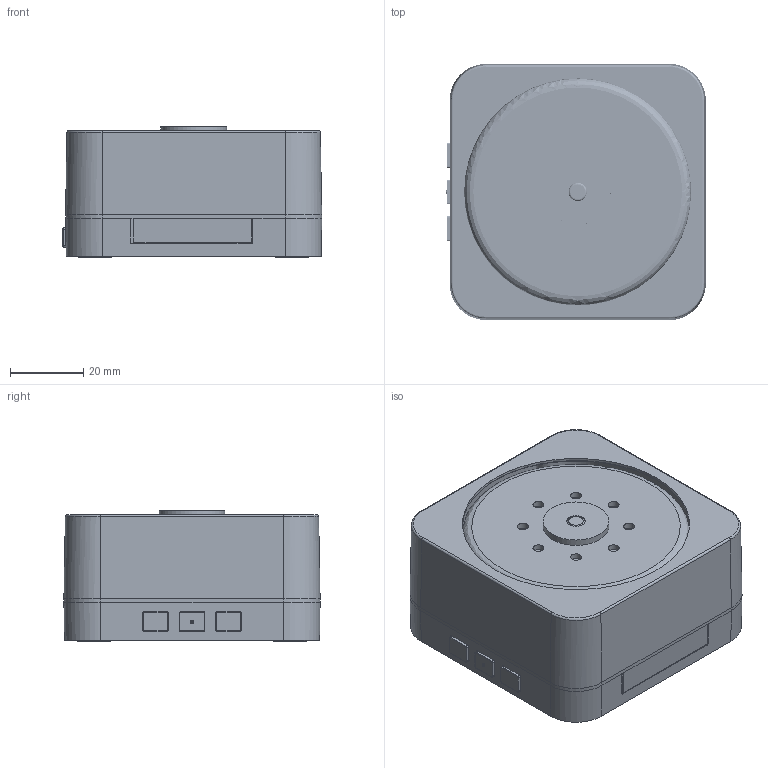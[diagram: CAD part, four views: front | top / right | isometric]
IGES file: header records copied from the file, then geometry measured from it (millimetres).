
Global section: file name: km-1_public_ver1; native system: unknown; preprocessor: unknown; author: for21.rakuten@gmail.com; organization: unknown; date: 20171026.120210; units: millimetre
Bounding box: 70.9 x 70 x 35.6 mm (x, y, z)
Volume: 128503.9 mm3; surface area: 40898.8 mm2
Topology: 2 solids, 9 shells, 583 faces, 1506 edges, 1007 vertices
Faces by surface type: bspline 583
